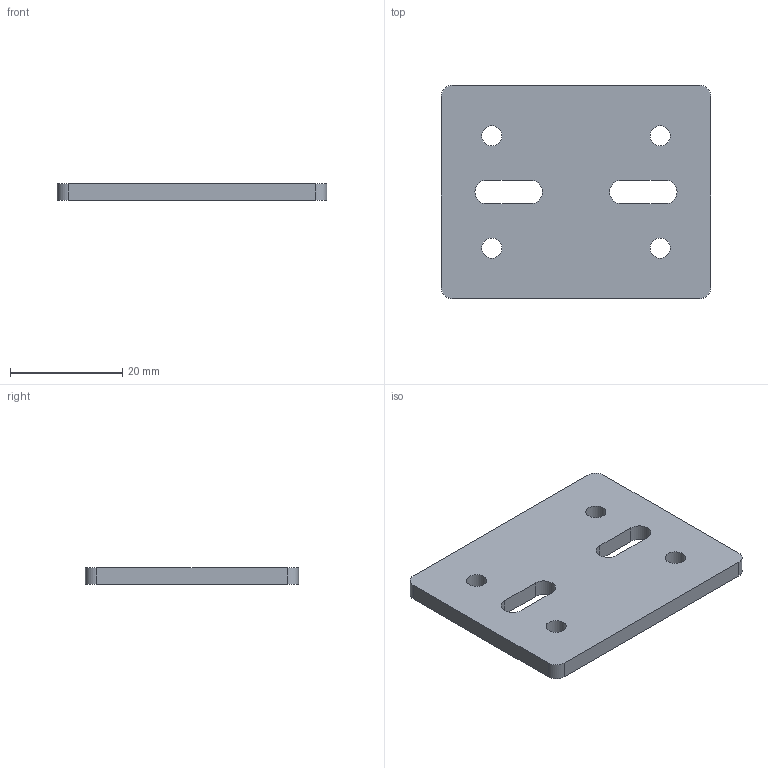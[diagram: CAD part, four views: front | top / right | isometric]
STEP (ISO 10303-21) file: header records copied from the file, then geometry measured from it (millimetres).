
FILE_DESCRIPTION(('Open CASCADE Model'),'2;1');
FILE_NAME('Open CASCADE Shape Model','2026-09-20T04:25:33',('Author'),( 'Open CASCADE'),'Open CASCADE STEP processor 7.9','Open CASCADE 7.9' ,'Unknown');
FILE_SCHEMA(('AUTOMOTIVE_DESIGN { 1 0 10303 214 1 1 1 1 }'));
Length unit declared in the file: millimetre
Products named in the file (1): Open CASCADE STEP translator 7.9 10
Bounding box: 48 x 38 x 3 mm (x, y, z)
Volume: 5059.9 mm3; surface area: 4187.4 mm2
Topology: 1 solids, 1 shells, 22 faces, 60 edges, 40 vertices
Faces by surface type: cylinder 12, plane 10
Full cylindrical faces by diameter (mm): 3.6 x4
Entity records: 1550 total; most frequent: CARTESIAN_POINT 323, DIRECTION 230, LINE 124, VECTOR 124, ORIENTED_EDGE 120, PCURVE 120, DEFINITIONAL_REPRESENTATION 120, EDGE_CURVE 60
